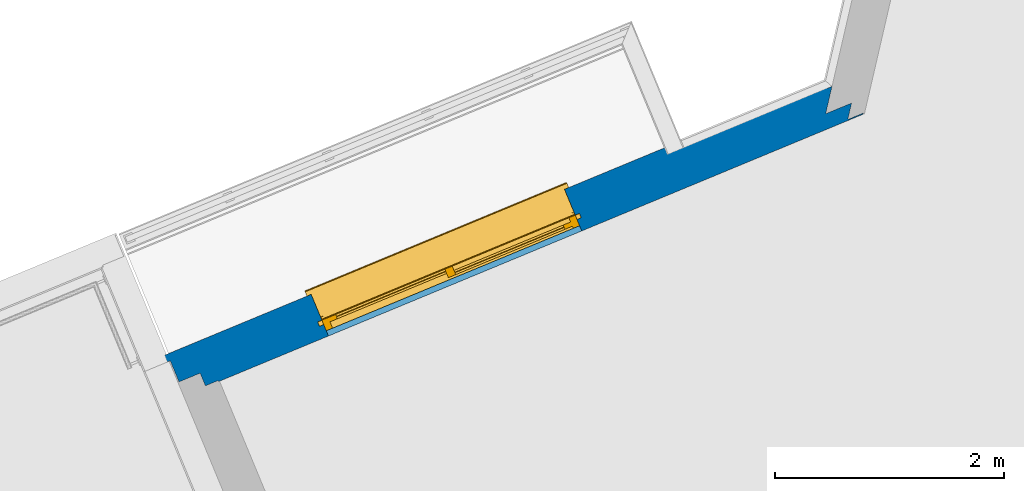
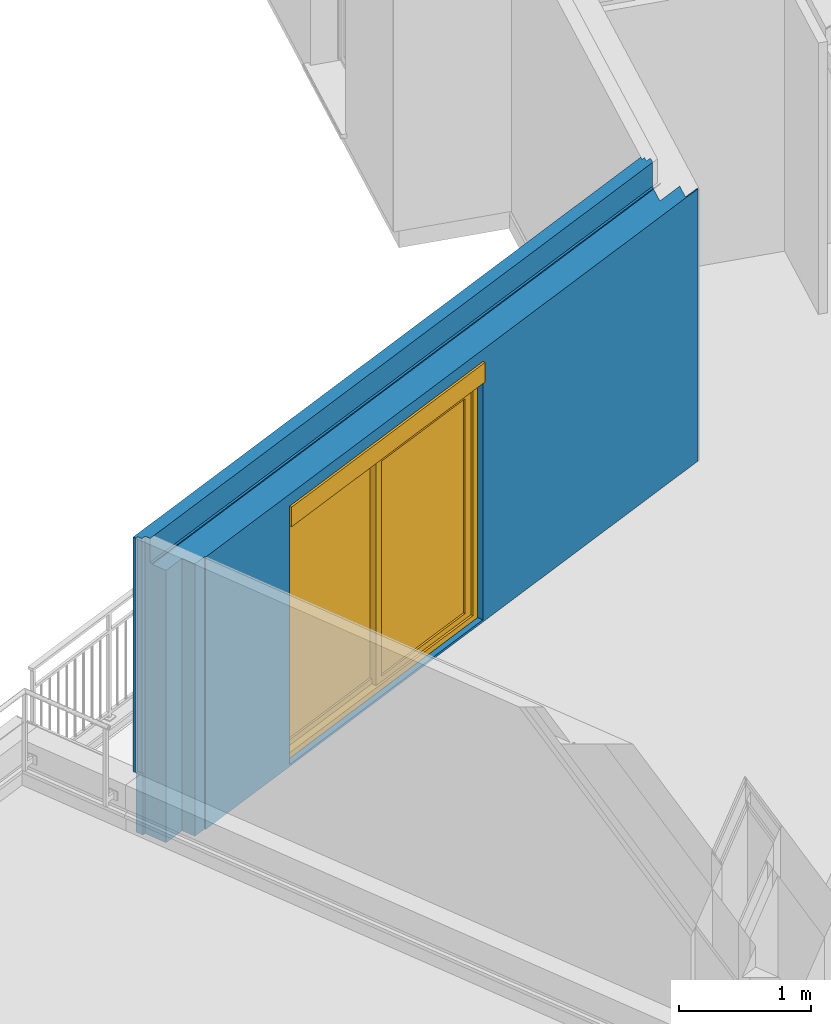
# One storey, part 3 of 62: 1 wall, 1 window, 1 opening.
"""IFC2X3 building model written with IfcOpenShell, lengths in metres."""

from ifc_helpers import new_model, entity, si_unit, converted_unit, derived_unit, money_unit, direction, frame, origin_with_axes, place, context, subcontext, project, spatial, open_shell, faceted_brep, surface_model, source, transform, mapped, material, material_list, type_object, element, fill, save


model = new_model("IFC2X3")

# Units and contexts
model_context = context("Model", 3, precision=1e-05, world=origin_with_axes(), true_north=direction((0.0, 1.0)))
body_context = subcontext(model_context, "Body", "Model", "MODEL_VIEW")
ifc_project = project(units=[si_unit("LENGTHUNIT", "METRE"), si_unit("AREAUNIT", "SQUARE_METRE"), si_unit("VOLUMEUNIT", "CUBIC_METRE"), converted_unit("PLANEANGLEUNIT", "DEGREE", entity("IfcPlaneAngleMeasure", 0.0174532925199), si_unit("PLANEANGLEUNIT", "RADIAN"), dimensions=[0, 0, 0, 0, 0, 0, 0]), si_unit("SOLIDANGLEUNIT", "STERADIAN"), money_unit("EUR"), converted_unit("TIMEUNIT", "Year", entity("IfcTimeMeasure", 31556926.0), si_unit("TIMEUNIT", "SECOND"), dimensions=[0, 0, 1, 0, 0, 0, 0]), si_unit("MASSUNIT", "GRAM", prefix="KILO"), si_unit("THERMODYNAMICTEMPERATUREUNIT", "DEGREE_CELSIUS"), si_unit("LUMINOUSINTENSITYUNIT", "LUMEN"), si_unit("ENERGYUNIT", "JOULE", prefix="MEGA"), derived_unit("THERMALCONDUCTANCEUNIT", [(si_unit("POWERUNIT", "WATT"), 1), (si_unit("LENGTHUNIT", "METRE"), -1), (si_unit("THERMODYNAMICTEMPERATUREUNIT", "KELVIN"), -1)]), derived_unit("SPECIFICHEATCAPACITYUNIT", [(si_unit("ENERGYUNIT", "JOULE"), 1), (si_unit("MASSUNIT", "GRAM", prefix="KILO"), -1), (si_unit("THERMODYNAMICTEMPERATUREUNIT", "KELVIN"), -1)]), derived_unit("MASSDENSITYUNIT", [(si_unit("MASSUNIT", "GRAM", prefix="KILO"), 1), (si_unit("VOLUMEUNIT", "CUBIC_METRE"), -1)])], contexts=[model_context])

# Site, building, storey
site_placement = place(None, origin_with_axes())
site = spatial("IfcSite", under=ifc_project, at=site_placement, Name="Site", CompositionType="ELEMENT")
building_placement = place(site_placement, origin_with_axes())
building = spatial("IfcBuilding", under=site, at=building_placement, Name="Bâtiment", CompositionType="ELEMENT")
storey_placement = place(building_placement, frame((0.0, 0.0, 8.16), z_axis=(0.0, 0.0, 1.0), x_axis=(1.0, 0.0, 0.0)))
storey = spatial("IfcBuildingStorey", under=building, at=storey_placement, Name="R+3", CompositionType="ELEMENT", Elevation=8.16)

# Wall, opening, window
ifc_material_1 = material(Name="Finition int - Plaque de plâtre")
ifc_material_2 = material(Name="Isolation - Polystyrène extrudé")
ifc_material_3 = material(Name="Bloc ELITHERM")
ifc_material_4 = material(Name="Mortier")
ifc_material_5 = material(Name="Béton cellulaire")
ifc_material_6 = material(Name="Bois - Lattage")
ifc_material_7 = material(Name="Finition ext - Bardage bois")
ifc_material_list = material_list([ifc_material_1, ifc_material_2, ifc_material_3, ifc_material_4, ifc_material_5, ifc_material_6, ifc_material_7])
wall_type = type_object("IfcWallType", Name="Mur ALKERN + planelle 23 BARDAGE courant 395 x 2740", PredefinedType="USERDEFINED")
wall_placement = place(storey_placement, frame((-19.7909458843, -12.7472422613, 0.0), z_axis=(0.0, 0.0, 1.0), x_axis=(-0.92370167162, -0.383112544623, 0.0)))
wall = element("IfcWall", 1, at=wall_placement, inside=storey, type_object=wall_type, material=ifc_material_list, Name="Mue bloc ALKERN isolé", ObjectType="SOLIDWALL", context=body_context, shape_type="Brep", body=[
    faceted_brep([(5.93455632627, 0.35999998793, 0.0), (-0.173037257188, 0.35999998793, 0.0), (-0.173037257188, 0.35999998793, 2.51), (5.93455632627, 0.35999998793, 2.51), (4.89263030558, 0.35999998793, 2.22), (4.89263030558, 0.35999998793, 2.4), (2.49263030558, 0.35999998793, 2.4), (2.49263030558, 0.35999998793, 2.22), (2.49263030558, 0.35999998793, 0.02), (4.89263030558, 0.35999998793, 0.02), (5.93455632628, 0.350000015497, 0.0), (-0.18017601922, 0.350000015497, 0.0), (-0.18017601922, 0.350000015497, 2.51), (5.93455632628, 0.350000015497, 2.51), (4.89263030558, 0.350000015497, 2.22), (4.89263030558, 0.350000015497, 2.4), (2.49263030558, 0.350000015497, 2.4), (2.49263030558, 0.350000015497, 2.22), (2.49263030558, 0.350000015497, 0.02), (4.89263030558, 0.350000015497, 0.02)], [[[0, 1, 2, 3], [4, 5, 6, 7, 8, 9]], [[10, 11, 1, 0]], [[12, 2, 1, 11]], [[3, 2, 12, 13]], [[3, 13, 10, 0]], [[5, 4, 14, 15]], [[6, 5, 15, 16]], [[7, 6, 16, 17]], [[7, 17, 18, 8]], [[8, 18, 19, 9]], [[14, 4, 9, 19]], [[13, 12, 11, 10], [15, 14, 19, 18, 17, 16]]]),
    faceted_brep([(2.49263030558, 0.230000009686, 0.02), (2.49263030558, 0.251, 0.02), (2.49263030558, 0.350000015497, 0.02), (2.49263030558, 0.350000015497, 2.22), (2.49263030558, 0.230000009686, 2.22), (2.49263030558, 0.230000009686, 0.0), (2.49263030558, 0.251, 0.0), (4.89263030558, 0.251, 0.02), (4.89263030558, 0.350000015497, 0.02), (-0.0327359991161, 0.350000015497, 0.0), (-0.0327359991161, 0.350000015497, 2.51), (6.05455635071, 0.350000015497, 2.50999999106), (6.05455635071, 0.350000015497, 0.0), (4.89263030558, 0.350000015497, 2.22), (4.89263030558, 0.350000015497, 2.4), (2.49263030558, 0.350000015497, 2.4), (2.49263030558, 0.230000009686, 2.4), (4.89263030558, 0.230000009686, 2.4), (4.89263030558, 0.230000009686, 2.22), (4.89263030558, 0.230000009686, 0.02), (4.89263030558, 0.230000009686, 0.0), (6.05455635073, 0.230000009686, 0.0), (6.05455635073, 0.230000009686, 2.50999999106), (-0.118401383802, 0.230000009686, 2.51), (-0.118401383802, 0.230000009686, 0.0), (4.89263030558, 0.251, 0.0)], [[[0, 1, 2, 3, 4]], [[1, 0, 5, 6]], [[1, 7, 8, 2]], [[9, 10, 11, 12], [3, 2, 8, 13, 14, 15]], [[15, 16, 4, 3]], [[5, 0, 4, 16, 17, 18, 19, 20, 21, 22, 23, 24]], [[6, 5, 24, 9, 12, 21, 20, 25]], [[7, 1, 6, 25]], [[7, 19, 18, 13, 8]], [[10, 9, 24, 23]], [[10, 23, 22, 11]], [[22, 21, 12, 11]], [[13, 18, 17, 14]], [[14, 17, 16, 15]], [[19, 7, 25, 20]]]),
    faceted_brep([(2.49263030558, 0.229999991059, 0.02), (2.49263030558, 0.229999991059, 0.0), (0.12733196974, 0.229999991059, 0.0), (0.12733196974, 0.229999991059, 2.50999999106), (6.25455630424, 0.229999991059, 2.50999999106), (6.25455630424, 0.229999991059, 0.0), (4.89263030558, 0.229999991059, 0.0), (4.89263030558, 0.229999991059, 0.02), (4.89263030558, 0.229999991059, 2.22), (4.89263030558, 0.229999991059, 2.4), (2.49263030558, 0.229999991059, 2.4), (2.49263030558, 0.229999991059, 2.22), (2.49263030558, 0.03, 0.02), (2.49263030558, 0.03, 0.0), (2.49263030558, 0.18, 2.4), (2.49263030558, 0.18, 2.22), (2.49263030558, 0.03, 2.22), (-0.0154436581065, 0.03, 0.0), (-0.0154436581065, 0.03, 2.50999999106), (0.0331000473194, 0.0979999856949, 2.50999999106), (6.25455630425, 0.0979999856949, 2.50999999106), (6.25455630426, 0.03, 2.50999999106), (6.25455630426, 0.03, 0.0), (4.89263030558, 0.03, 0.0), (4.89263030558, 0.03, 0.02), (4.89263030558, 0.03, 2.22), (4.89263030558, 0.18, 2.22), (4.89263030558, 0.18, 2.4)], [[[0, 1, 2, 3, 4, 5, 6, 7, 8, 9, 10, 11]], [[12, 13, 1, 0, 11, 10, 14, 15, 16]], [[1, 13, 17, 2]], [[3, 2, 17, 18, 19]], [[20, 4, 3, 19]], [[21, 22, 5, 4, 20]], [[23, 6, 5, 22]], [[7, 6, 23, 24, 25, 26, 27, 9, 8]], [[9, 27, 14, 10]], [[13, 12, 16, 25, 24, 23, 22, 21, 18, 17]], [[15, 14, 27, 26]], [[26, 25, 16, 15]], [[21, 20, 19, 18]]]),
    faceted_brep([(6.25455630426, 0.03, 2.52), (6.25455630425, 0.098, 2.52), (0.0331000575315, 0.098, 2.52), (-0.0154436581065, 0.03, 2.52), (6.25455630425, 0.098, 2.50999999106), (6.25455630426, 0.03, 2.50999999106), (0.0331000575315, 0.098, 2.51), (-0.0154436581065, 0.03, 2.51)], [[[0, 1, 2, 3]], [[4, 1, 0, 5]], [[1, 4, 6, 2]], [[7, 3, 2, 6]], [[5, 0, 3, 7]], [[4, 5, 7, 6]]]),
    faceted_brep([(6.25455630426, 0.03, 2.74), (6.25455630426, 0.0780000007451, 2.74), (0.0188224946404, 0.0780000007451, 2.74), (-0.0154436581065, 0.03, 2.74), (6.25455630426, 0.0780000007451, 2.52), (6.25455630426, 0.03, 2.52), (0.0188224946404, 0.0780000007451, 2.5200000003), (-0.0154436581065, 0.03, 2.5200000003)], [[[0, 1, 2, 3]], [[4, 1, 0, 5]], [[1, 4, 6, 2]], [[7, 3, 2, 6]], [[5, 0, 3, 7]], [[4, 5, 7, 6]]]),
    faceted_brep([(2.49263030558, 0.030000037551, 0.02), (2.49263030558, 0.0299999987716, 0.0), (1.54612367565, 0.0299999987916, 0.0), (1.53614314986, 0.0299999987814, 0.0106237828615), (1.39610420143, 0.0299999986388, 0.0193762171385), (1.38612367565, 0.0299999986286, 0.01), (1.38612367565, 0.0299999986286, 0.0), (0.033703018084, 0.030000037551, 0.0), (0.033703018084, 0.030000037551, 2.50999999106), (0.033703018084, 0.030000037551, 2.52), (0.033703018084, 0.030000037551, 2.74), (6.29455634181, 0.030000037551, 2.74), (6.29455634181, 0.030000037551, 2.52), (6.29455634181, 0.030000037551, 2.50999999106), (6.29455634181, 0.029999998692, 0.580000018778), (6.27955634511, 0.0299999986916, 0.580000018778), (6.27955634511, 0.0299999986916, 0.357041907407), (6.27955634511, 0.0299999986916, 0.318976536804), (6.27955634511, 0.0299999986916, 0.309999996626), (6.27955634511, 0.0299999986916, 0.282882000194), (6.27955634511, 0.0299999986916, 0.0999999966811), (6.27955634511, 0.0299999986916, 0.0), (4.89263030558, 0.0299999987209, 0.0), (4.89263030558, 0.030000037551, 0.02), (4.89263030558, 0.030000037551, 2.22), (2.49263030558, 0.030000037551, 2.22), (2.49263030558, -0.00999998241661, 0.02), (2.49263030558, -0.00999998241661, 0.0), (1.54612367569, -0.00999998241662, 0.0), (1.5361431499, -0.00999998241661, 0.0106237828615), (1.39610420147, -0.00999998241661, 0.0193762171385), (1.38612367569, -0.00999998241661, 0.01), (1.38612367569, -0.00999998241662, 0.0), (0.00514787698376, -0.00999998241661, 0.0), (0.00514787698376, -0.00999998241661, 2.50999999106), (0.00514787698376, -0.00999998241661, 2.52), (0.00514787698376, -0.00999998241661, 2.74), (6.29455634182, -0.00999998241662, 2.74), (6.29455634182, -0.00999998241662, 2.52), (6.29455634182, -0.00999998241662, 2.50999999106), (6.29455634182, -0.00999998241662, 0.580000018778), (6.27955634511, -0.00999998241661, 0.580000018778), (6.27955634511, -0.00999998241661, 0.357041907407), (6.27955634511, -0.00999998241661, 0.318976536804), (6.27955634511, -0.00999998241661, 0.309999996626), (6.27955634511, -0.00999998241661, 0.282882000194), (6.27955634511, -0.00999998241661, 0.0999999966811), (6.27955634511, -0.00999998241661, 0.0), (4.89263030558, -0.00999998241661, 0.0), (4.89263030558, -0.00999998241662, 0.02), (4.89263030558, -0.00999998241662, 2.22), (2.49263030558, -0.00999998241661, 2.22)], [[[0, 1, 2, 3, 4, 5, 6, 7, 8, 9, 10, 11, 12, 13, 14, 15, 16, 17, 18, 19, 20, 21, 22, 23, 24, 25]], [[1, 0, 26, 27]], [[1, 27, 28, 2]], [[2, 28, 29, 3]], [[3, 29, 30, 4]], [[4, 30, 31, 5]], [[5, 31, 32, 6]], [[32, 33, 7, 6]], [[8, 7, 33, 34]], [[9, 8, 34, 35]], [[36, 10, 9, 35]], [[11, 10, 36, 37]], [[11, 37, 38, 12]], [[38, 39, 13, 12]], [[39, 40, 14, 13]], [[14, 40, 41, 15]], [[15, 41, 42, 16]], [[42, 43, 17, 16]], [[43, 44, 18, 17]], [[44, 45, 19, 18]], [[45, 46, 20, 19]], [[46, 47, 21, 20]], [[48, 22, 21, 47]], [[49, 23, 22, 48]], [[23, 49, 50, 24]], [[24, 50, 51, 25]], [[26, 0, 25, 51]], [[27, 26, 51, 50, 49, 48, 47, 46, 45, 44, 43, 42, 41, 40, 39, 38, 37, 36, 35, 34, 33, 32, 31, 30, 29, 28]]]),
    faceted_brep([(2.49263030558, -0.01, 0.02), (2.49263030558, -0.01, 0.0), (1.54612367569, -0.01, 0.0), (1.5361431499, -0.01, 0.0106237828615), (1.39610420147, -0.01, 0.0193762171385), (1.38612367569, -0.01, 0.01), (1.38612367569, -0.01, 0.0), (0.0358645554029, -0.01, 0.0), (0.0358645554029, -0.01, 2.50999999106), (0.0358645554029, -0.01, 2.52), (0.0358645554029, -0.01, 2.74), (6.31955633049, -0.01, 2.74), (6.31955633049, -0.01, 0.580000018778), (6.27955634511, -0.01, 0.580000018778), (6.27955634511, -0.01, 0.357041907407), (6.27955634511, -0.01, 0.318976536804), (6.27955634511, -0.01, 0.309999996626), (6.27955634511, -0.01, 0.282882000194), (6.27955634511, -0.01, 0.0999999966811), (6.27955634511, -0.01, 0.0), (4.89263030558, -0.01, 0.0), (4.89263030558, -0.01, 0.02), (4.89263030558, -0.01, 2.22), (2.49263030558, -0.01, 2.22), (2.49263030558, -0.035, 0.02), (2.49263030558, -0.035, 0.0), (1.54612367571, -0.035, 0.0), (1.53614314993, -0.035, 0.0106237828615), (1.3961042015, -0.035, 0.0193762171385), (1.38612367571, -0.035, 0.01), (1.38612367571, -0.035, 0.0), (0.0180176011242, -0.035, 0.0), (0.0180176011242, -0.035, 2.50999999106), (0.0180176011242, -0.035, 2.52), (0.0180176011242, -0.035, 2.74), (6.3195563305, -0.035, 2.74), (6.3195563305, -0.035, 0.580000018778), (6.27955634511, -0.035, 0.580000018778), (6.27955634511, -0.035, 0.357041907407), (6.27955634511, -0.035, 0.318976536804), (6.27955634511, -0.035, 0.309999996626), (6.27955634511, -0.035, 0.282882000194), (6.27955634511, -0.035, 0.0999999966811), (6.27955634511, -0.035, 0.0), (4.89263030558, -0.035, 0.0), (4.89263030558, -0.035, 0.02), (4.89263030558, -0.035, 2.22), (2.49263030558, -0.035, 2.22)], [[[0, 1, 2, 3, 4, 5, 6, 7, 8, 9, 10, 11, 12, 13, 14, 15, 16, 17, 18, 19, 20, 21, 22, 23]], [[1, 0, 24, 25]], [[1, 25, 26, 2]], [[2, 26, 27, 3]], [[3, 27, 28, 4]], [[4, 28, 29, 5]], [[5, 29, 30, 6]], [[30, 31, 7, 6]], [[8, 7, 31, 32]], [[9, 8, 32, 33]], [[34, 10, 9, 33]], [[34, 35, 11, 10]], [[12, 11, 35, 36]], [[12, 36, 37, 13]], [[13, 37, 38, 14]], [[38, 39, 15, 14]], [[39, 40, 16, 15]], [[40, 41, 17, 16]], [[41, 42, 18, 17]], [[42, 43, 19, 18]], [[44, 20, 19, 43]], [[45, 21, 20, 44]], [[21, 45, 46, 22]], [[22, 46, 47, 23]], [[24, 0, 23, 47]], [[25, 24, 47, 46, 45, 44, 43, 42, 41, 40, 39, 38, 37, 36, 35, 34, 33, 32, 31, 30, 29, 28, 27, 26]]]),
])
opening_placement = place(wall_placement, frame((3.69263030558, 0.0, 0.02), z_axis=(0.0, 0.0, 1.0), x_axis=(1.0, 0.0, 0.0)))
opening = element("IfcOpeningElement", 2, at=opening_placement, cuts=wall, Name="MEN 112", context=body_context, shape_type="Brep", body=[
    faceted_brep([(1.2, 0.21, 0.0), (-1.2, 0.21, 0.0), (-1.2, 0.84999998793, 0.0), (1.2, 0.84999998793, 0.0), (1.2, 0.21, 2.2), (-1.2, 0.21, 2.2), (-1.2, 0.84999998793, 2.2), (1.2, 0.84999998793, 2.2)], [[[0, 1, 2, 3]], [[0, 4, 5, 1]], [[1, 5, 6, 2]], [[3, 2, 6, 7]], [[4, 0, 3, 7]], [[5, 4, 7, 6]]]),
    faceted_brep([(1.2, 0.21, 0.0), (1.2, 0.21, 2.2), (1.2, -0.42999998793, 2.2), (1.2, -0.42999998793, 0.0), (-1.2, 0.21, 0.0), (-1.2, 0.21, 2.2), (-1.2, -0.42999998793, 2.2), (-1.2, -0.42999998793, 0.0)], [[[0, 1, 2, 3]], [[0, 4, 5, 1]], [[1, 5, 6, 2]], [[3, 2, 6, 7]], [[4, 0, 3, 7]], [[5, 4, 7, 6]]]),
    faceted_brep([(1.2, 0.21, 0.0), (1.2, 0.21, 2.2), (1.2, -0.42999998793, 2.2), (1.2, -0.42999998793, 0.0), (-1.2, 0.21, 0.0), (-1.2, 0.21, 2.2), (-1.2, -0.42999998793, 2.2), (-1.2, -0.42999998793, 0.0)], [[[0, 1, 2, 3]], [[0, 4, 5, 1]], [[1, 5, 6, 2]], [[3, 2, 6, 7]], [[4, 0, 3, 7]], [[5, 4, 7, 6]]]),
    faceted_brep([(1.2, 0.18, 2.2), (-1.2, 0.18, 2.2), (-1.2, 0.81999998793, 2.2), (1.2, 0.81999998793, 2.2), (1.2, 0.18, 2.38), (-1.2, 0.18, 2.38), (-1.2, 0.81999998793, 2.38), (1.2, 0.81999998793, 2.38)], [[[0, 1, 2, 3]], [[0, 4, 5, 1]], [[1, 5, 6, 2]], [[3, 2, 6, 7]], [[4, 0, 3, 7]], [[5, 4, 7, 6]]]),
    faceted_brep([(1.2, 0.251, 0.0), (-1.2, 0.251, 0.0), (-1.2, -0.38899998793, 0.0), (1.2, -0.38899998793, 0.0), (1.2, 0.251, -0.06), (-1.2, 0.251, -0.06), (-1.2, -0.38899998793, -0.06), (1.2, -0.38899998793, -0.06)], [[[0, 1, 2, 3]], [[0, 4, 5, 1]], [[1, 5, 6, 2]], [[3, 2, 6, 7]], [[4, 0, 3, 7]], [[5, 4, 7, 6]]]),
])
window_style = type_object("IfcWindowStyle", Name="Baie générique 2017 v2", ConstructionType="NOTDEFINED", OperationType="NOTDEFINED", ParameterTakesPrecedence=False, Sizeable=False)
shared_shape = source(origin_with_axes(), body_context, "Body", "SurfaceModel", [
    faceted_brep([(1.2, 0.1, 0.0), (1.2, 0.0, 0.0), (-1.2, 0.0, 0.0), (-1.2, 0.1, 0.0), (1.2, 0.1, 2.2), (1.2, 0.0, 2.2), (-1.2, 0.0, 2.2), (1.14, 0.0, 0.05), (-1.14, 0.0, 0.05), (-1.14, 0.0, 2.15), (1.14, 0.0, 2.15), (-1.2, 0.1, 2.2), (1.14, 0.1, 0.05), (1.14, 0.1, 2.15), (-1.14, 0.1, 2.15), (-1.14, 0.1, 0.05)], [[[0, 1, 2, 3]], [[4, 5, 1, 0]], [[1, 5, 6, 2], [7, 8, 9, 10]], [[3, 2, 6, 11]], [[0, 3, 11, 4], [12, 13, 14, 15]], [[11, 6, 5, 4]], [[15, 8, 7, 12]], [[14, 9, 8, 15]], [[13, 10, 9, 14]], [[12, 7, 10, 13]]]),
    faceted_brep([(1.14, 0.04, 0.05), (-0.035, 0.04, 0.05), (-0.035, 0.04, 2.15), (1.14, 0.04, 2.15), (0.035, 0.04, 2.08), (0.035, 0.04, 0.1), (1.07, 0.04, 0.1), (1.07, 0.04, 2.08), (-0.035, 0.02, 0.05), (1.14, 0.02, 0.05), (1.14, 0.0, 0.05), (-0.035, 0.0, 0.05), (-0.035, 0.02, 2.15), (-0.035, 0.0, 2.15), (1.14, 0.0, 2.15), (1.14, 0.02, 2.15), (0.035, 0.0, 2.08), (0.035, 0.0, 0.1), (1.07, 0.0, 0.1), (1.07, 0.0, 2.08)], [[[0, 1, 2, 3], [4, 5, 6, 7]], [[8, 1, 0, 9, 10, 11]], [[12, 2, 1, 8, 11, 13]], [[13, 14, 15, 3, 2, 12]], [[14, 10, 9, 0, 3, 15]], [[4, 16, 17, 5]], [[17, 18, 6, 5]], [[18, 19, 7, 6]], [[7, 19, 16, 4]], [[13, 11, 10, 14], [17, 16, 19, 18]]]),
    surface_model("IfcShellBasedSurfaceModel", [(1.14, 0.04, 0.05), (-0.035, 0.04, 0.05), (-0.035, 0.04, 2.15), (1.14, 0.04, 2.15), (1.07, 0.04, 0.1), (1.07, 0.04, 2.08), (0.035, 0.04, 2.08), (0.035, 0.04, 0.1)], [open_shell([[[0, 1, 2, 3], [4, 5, 6, 7]]])]),
    surface_model("IfcShellBasedSurfaceModel", [(1.14, 0.0, 0.05), (-0.035, 0.0, 0.05), (-0.035, 0.0, 2.15), (1.14, 0.0, 2.15), (1.07, 0.0, 0.1), (1.07, 0.0, 2.08), (0.035, 0.0, 2.08), (0.035, 0.0, 0.1)], [open_shell([[[0, 1, 2, 3], [4, 5, 6, 7]]])]),
    faceted_brep([(1.07, 0.0225, 0.1), (1.07, 0.0175, 0.1), (0.035, 0.0175, 0.1), (0.035, 0.0225, 0.1), (1.07, 0.0225, 2.08), (1.07, 0.0175, 2.08), (0.035, 0.0175, 2.08), (0.035, 0.0225, 2.08)], [[[0, 1, 2, 3]], [[4, 5, 1, 0]], [[1, 5, 6, 2]], [[3, 2, 6, 7]], [[0, 3, 7, 4]], [[7, 6, 5, 4]]]),
    faceted_brep([(0.035, 0.08, 0.05), (-1.14, 0.08, 0.05), (-1.14, 0.08, 2.15), (0.035, 0.08, 2.15), (-1.07, 0.08, 2.08), (-1.07, 0.08, 0.1), (-0.035, 0.08, 0.1), (-0.035, 0.08, 2.08), (-1.14, 0.06, 0.05), (0.035, 0.06, 0.05), (0.035, 0.04, 0.05), (-1.14, 0.04, 0.05), (-1.14, 0.06, 2.15), (-1.14, 0.04, 2.15), (0.035, 0.04, 2.15), (0.035, 0.06, 2.15), (-1.07, 0.04, 2.08), (-1.07, 0.04, 0.1), (-0.035, 0.04, 0.1), (-0.035, 0.04, 2.08)], [[[0, 1, 2, 3], [4, 5, 6, 7]], [[8, 1, 0, 9, 10, 11]], [[12, 2, 1, 8, 11, 13]], [[13, 14, 15, 3, 2, 12]], [[14, 10, 9, 0, 3, 15]], [[4, 16, 17, 5]], [[17, 18, 6, 5]], [[18, 19, 7, 6]], [[7, 19, 16, 4]], [[13, 11, 10, 14], [17, 16, 19, 18]]]),
    surface_model("IfcShellBasedSurfaceModel", [(0.035, 0.08, 0.05), (-1.14, 0.08, 0.05), (-1.14, 0.08, 2.15), (0.035, 0.08, 2.15), (-0.035, 0.08, 0.1), (-0.035, 0.08, 2.08), (-1.07, 0.08, 2.08), (-1.07, 0.08, 0.1)], [open_shell([[[0, 1, 2, 3], [4, 5, 6, 7]]])]),
    surface_model("IfcShellBasedSurfaceModel", [(0.035, 0.04, 0.05), (-1.14, 0.04, 0.05), (-1.14, 0.04, 2.15), (0.035, 0.04, 2.15), (-0.035, 0.04, 0.1), (-0.035, 0.04, 2.08), (-1.07, 0.04, 2.08), (-1.07, 0.04, 0.1)], [open_shell([[[0, 1, 2, 3], [4, 5, 6, 7]]])]),
    faceted_brep([(-0.035, 0.0625, 0.1), (-0.035, 0.0575, 0.1), (-1.07, 0.0575, 0.1), (-1.07, 0.0625, 0.1), (-0.035, 0.0625, 2.08), (-0.035, 0.0575, 2.08), (-1.07, 0.0575, 2.08), (-1.07, 0.0625, 2.08)], [[[0, 1, 2, 3]], [[4, 5, 1, 0]], [[1, 5, 6, 2]], [[3, 2, 6, 7]], [[0, 3, 7, 4]], [[7, 6, 5, 4]]]),
    faceted_brep([(1.2, -0.03, 0.0), (1.2, -0.03, 2.2), (1.175, -0.03, 2.2), (1.175, -0.03, 0.0), (1.2, -0.002, 0.0), (1.2, -0.002, 2.2), (1.175, -0.002, 2.2), (1.175, -0.004, 2.2), (1.198, -0.004, 2.2), (1.198, -0.028, 2.2), (1.175, -0.028, 2.2), (1.175, -0.028, 0.0), (1.198, -0.028, 0.0), (1.198, -0.004, 0.0), (1.175, -0.004, 0.0), (1.175, -0.002, 0.0)], [[[0, 1, 2, 3]], [[4, 5, 1, 0]], [[1, 5, 6, 7, 8, 9, 10, 2]], [[3, 2, 10, 11]], [[0, 3, 11, 12, 13, 14, 15, 4]], [[15, 6, 5, 4]], [[14, 7, 6, 15]], [[13, 8, 7, 14]], [[12, 9, 8, 13]], [[11, 10, 9, 12]]]),
    faceted_brep([(-1.2, -0.03, 0.0), (-1.175, -0.03, 0.0), (-1.175, -0.03, 2.2), (-1.2, -0.03, 2.2), (-1.2, -0.002, 0.0), (-1.175, -0.002, 0.0), (-1.175, -0.004, 0.0), (-1.198, -0.004, 0.0), (-1.198, -0.028, 0.0), (-1.175, -0.028, 0.0), (-1.175, -0.028, 2.2), (-1.198, -0.028, 2.2), (-1.198, -0.004, 2.2), (-1.175, -0.004, 2.2), (-1.175, -0.002, 2.2), (-1.2, -0.002, 2.2)], [[[0, 1, 2, 3]], [[0, 4, 5, 6, 7, 8, 9, 1]], [[1, 9, 10, 2]], [[3, 2, 10, 11, 12, 13, 14, 15]], [[4, 0, 3, 15]], [[5, 4, 15, 14]], [[6, 5, 14, 13]], [[7, 6, 13, 12]], [[8, 7, 12, 11]], [[9, 8, 11, 10]]]),
    faceted_brep([(-1.198, -0.028, 2.2), (-1.198, -0.028, 2.378), (1.198, -0.028, 2.378), (1.198, -0.028, 2.2), (-1.198, -0.03, 2.2), (-1.198, -0.03, 2.38), (-1.198, 0.17, 2.38), (-1.198, 0.17, 2.2), (-1.198, 0.168, 2.2), (-1.198, 0.168, 2.378), (1.198, 0.168, 2.378), (1.198, 0.168, 2.2), (1.198, 0.17, 2.2), (1.198, 0.17, 2.38), (1.198, -0.03, 2.38), (1.198, -0.03, 2.2)], [[[0, 1, 2, 3]], [[0, 4, 5, 6, 7, 8, 9, 1]], [[1, 9, 10, 2]], [[3, 2, 10, 11, 12, 13, 14, 15]], [[4, 0, 3, 15]], [[5, 4, 15, 14]], [[6, 5, 14, 13]], [[7, 6, 13, 12]], [[8, 7, 12, 11]], [[9, 8, 11, 10]]]),
    faceted_brep([(-1.198, 0.0724697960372, 2.27436337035), (-1.198, 0.0555495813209, 2.27050144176), (-1.198, 0.041980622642, 2.28132232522), (-1.198, 0.041980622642, 2.29867767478), (-1.198, 0.0555495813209, 2.30949855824), (-1.198, 0.0724697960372, 2.30563662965), (-1.198, 0.08, 2.29), (1.198, 0.0724697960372, 2.27436337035), (1.198, 0.0555495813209, 2.27050144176), (1.198, 0.041980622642, 2.28132232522), (1.198, 0.041980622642, 2.29867767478), (1.198, 0.0555495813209, 2.30949855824), (1.198, 0.0724697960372, 2.30563662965), (1.198, 0.08, 2.29)], [[[0, 1, 2, 3, 4, 5, 6]], [[1, 0, 7, 8]], [[2, 1, 8, 9]], [[3, 2, 9, 10]], [[4, 3, 10, 11]], [[5, 4, 11, 12]], [[6, 5, 12, 13]], [[0, 6, 13, 7]], [[7, 13, 12, 11, 10, 9, 8]]]),
    faceted_brep([(-1.188, 0.130275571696, 2.25615706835), (-1.188, 0.108632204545, 2.22901714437), (-1.188, 0.0773566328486, 2.21395562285), (-1.188, 0.0426433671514, 2.21395562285), (-1.188, 0.011367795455, 2.22901714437), (-1.188, -0.0102755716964, 2.25615706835), (-1.188, -0.018, 2.29), (-1.188, -0.0102755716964, 2.32384293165), (-1.188, 0.011367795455, 2.35098285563), (-1.188, 0.0426433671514, 2.36604437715), (-1.188, 0.0773566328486, 2.36604437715), (-1.188, 0.108632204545, 2.35098285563), (-1.188, 0.130275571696, 2.32384293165), (-1.188, 0.138, 2.29), (1.188, 0.130275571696, 2.25615706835), (1.188, 0.108632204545, 2.22901714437), (1.188, 0.0773566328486, 2.21395562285), (1.188, 0.0426433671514, 2.21395562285), (1.188, 0.011367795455, 2.22901714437), (1.188, -0.0102755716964, 2.25615706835), (1.188, -0.018, 2.29), (1.188, -0.0102755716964, 2.32384293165), (1.188, 0.011367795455, 2.35098285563), (1.188, 0.0426433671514, 2.36604437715), (1.188, 0.0773566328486, 2.36604437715), (1.188, 0.108632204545, 2.35098285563), (1.188, 0.130275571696, 2.32384293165), (1.188, 0.138, 2.29)], [[[0, 1, 2, 3, 4, 5, 6, 7, 8, 9, 10, 11, 12, 13]], [[1, 0, 14, 15]], [[2, 1, 15, 16]], [[3, 2, 16, 17]], [[4, 3, 17, 18]], [[5, 4, 18, 19]], [[6, 5, 19, 20]], [[7, 6, 20, 21]], [[8, 7, 21, 22]], [[9, 8, 22, 23]], [[10, 9, 23, 24]], [[11, 10, 24, 25]], [[12, 11, 25, 26]], [[13, 12, 26, 27]], [[0, 13, 27, 14]], [[14, 27, 26, 25, 24, 23, 22, 21, 20, 19, 18, 17, 16, 15]]]),
    faceted_brep([(-1.2, 0.17, 2.2), (-1.2, 0.17, 2.38), (-1.198, 0.17, 2.38), (-1.198, 0.17, 2.2), (-1.2, -0.03, 2.2), (-1.2, -0.03, 2.38), (-1.198, -0.03, 2.38), (-1.198, -0.03, 2.2)], [[[0, 1, 2, 3]], [[0, 4, 5, 1]], [[1, 5, 6, 2]], [[3, 2, 6, 7]], [[4, 0, 3, 7]], [[5, 4, 7, 6]]]),
    faceted_brep([(1.198, 0.17, 2.2), (1.198, 0.17, 2.38), (1.2, 0.17, 2.38), (1.2, 0.17, 2.2), (1.198, -0.03, 2.2), (1.198, -0.03, 2.38), (1.2, -0.03, 2.38), (1.2, -0.03, 2.2)], [[[0, 1, 2, 3]], [[0, 4, 5, 1]], [[1, 5, 6, 2]], [[3, 2, 6, 7]], [[4, 0, 3, 7]], [[5, 4, 7, 6]]]),
    faceted_brep([(-1.198, -0.004, 2.2), (-1.198, 0.168, 2.2), (1.198, 0.168, 2.2), (1.198, -0.004, 2.2), (-1.198, -0.004, 2.202), (-1.198, 0.168, 2.202), (1.198, 0.168, 2.202), (1.198, -0.004, 2.202)], [[[0, 1, 2, 3]], [[0, 4, 5, 1]], [[1, 5, 6, 2]], [[3, 2, 6, 7]], [[4, 0, 3, 7]], [[5, 4, 7, 6]]]),
    faceted_brep([(-1.188, -0.006, 2.2), (-1.188, -0.006, 2.29), (1.188, -0.006, 2.29), (1.188, -0.006, 2.2), (-1.188, -0.026, 2.2), (-1.188, -0.026, 2.29), (1.188, -0.026, 2.29), (1.188, -0.026, 2.2)], [[[0, 1, 2, 3]], [[1, 0, 4, 5]], [[2, 1, 5, 6]], [[3, 2, 6, 7]], [[4, 0, 3, 7]], [[5, 4, 7, 6]]]),
    faceted_brep([(-1.2, -0.00167949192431, -0.01), (1.2, -0.00167949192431, -0.01), (1.2, 0.0, -0.00373205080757), (1.24, 0.0, -0.00373205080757), (1.24, 0.001, 0.0), (-1.24, 0.001, 0.0), (-1.24, 0.0, -0.00373205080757), (-1.2, 0.0, -0.00373205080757), (-1.2, -0.009, -0.0173205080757), (1.2, -0.009, -0.0173205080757), (1.2, -0.245, -0.02), (1.2, -0.245, -0.06), (1.2, 0.0, -0.06), (1.2, -0.019, -0.02), (1.24, 0.0, -0.06), (1.24, 0.041, -0.06), (1.24, 0.041, 0.0), (-1.24, 0.041, 0.0), (-1.24, 0.041, -0.06), (-1.24, 0.0, -0.06), (-1.2, 0.0, -0.06), (-1.2, -0.245, -0.06), (-1.2, -0.245, -0.02), (-1.2, -0.019, -0.02), (1.24, -0.245, -0.02), (1.24, -0.245, -0.06), (1.24, -0.275, -0.06), (-1.24, -0.275, -0.06), (-1.24, -0.245, -0.06), (-1.24, -0.245, -0.02), (-1.24, -0.285, -0.02), (1.24, -0.285, -0.02), (1.24, -0.295, -0.03), (1.24, -0.295, -0.06), (1.24, -0.285, -0.06), (1.24, -0.285, -0.05), (1.24, -0.275, -0.05), (1.24, -0.292071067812, -0.0229289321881), (-1.24, -0.275, -0.05), (-1.24, -0.285, -0.05), (-1.24, -0.285, -0.06), (-1.24, -0.295, -0.06), (-1.24, -0.295, -0.03), (-1.24, -0.292071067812, -0.0229289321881)], [[[0, 1, 2, 3, 4, 5, 6, 7]], [[8, 9, 1, 0]], [[10, 11, 12, 2, 1, 9, 13]], [[3, 2, 12, 14]], [[4, 3, 14, 15, 16]], [[16, 17, 5, 4]], [[6, 5, 17, 18, 19]], [[19, 20, 7, 6]], [[7, 20, 21, 22, 23, 8, 0]], [[23, 13, 9, 8]], [[10, 24, 25, 11]], [[21, 20, 19, 18, 15, 14, 12, 11, 25, 26, 27, 28]], [[22, 29, 30, 31, 24, 10, 13, 23]], [[15, 18, 17, 16]], [[22, 21, 28, 29]], [[32, 33, 34, 35, 36, 26, 25, 24, 31, 37]], [[36, 38, 27, 26]], [[28, 27, 38, 39, 40, 41, 42, 43, 30, 29]], [[31, 30, 43, 37]], [[32, 42, 41, 33]], [[33, 41, 40, 34]], [[34, 40, 39, 35]], [[35, 39, 38, 36]], [[37, 43, 42, 32]]]),
])
window_placement = place(opening_placement, frame((-1.2, 0.0, 0.0), z_axis=(0.0, 0.0, 1.0), x_axis=(1.0, 0.0, 0.0)))
window = element("IfcWindow", 3, at=window_placement, inside=storey, type_object=window_style, Name="MEN 112", ObjectType="WINDOW", OverallHeight=2.2, OverallWidth=2.4, context=body_context, shape_type="MappedRepresentation", body=[
    mapped(shared_shape, transform((1.2, 0.21, 0.0))),
])
fill(opening, window)

save(model, "model.ifc")
